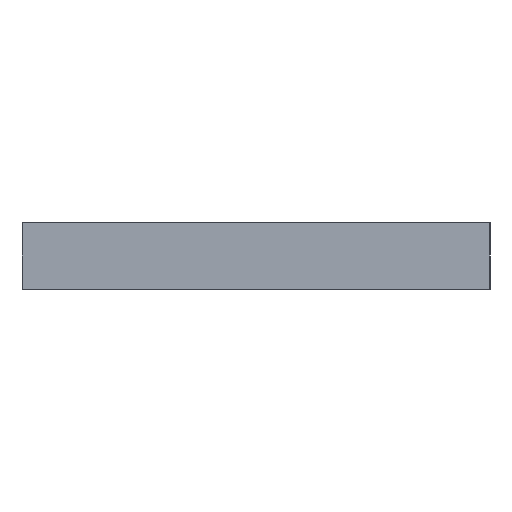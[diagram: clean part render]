
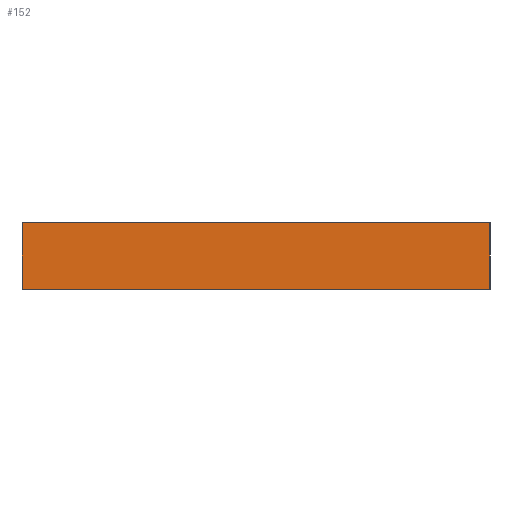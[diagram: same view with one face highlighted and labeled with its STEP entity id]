
A CAD part, left-side view. The second image highlights one B-rep face of the part: STEP entity #152.
In plain terms, the highlighted planar face has unit normal (-1, 0, 0).
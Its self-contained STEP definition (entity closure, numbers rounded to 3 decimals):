
#1 = DIRECTION ( 'NONE',  ( 0., 0., 1. ) ) ;
#12 = CARTESIAN_POINT ( 'NONE',  ( -21.991, -30.42, 1.5 ) ) ;
#20 = CARTESIAN_POINT ( 'NONE',  ( -21.991, -9.42, -1.5 ) ) ;
#23 = PLANE ( 'NONE',  #258 ) ;
#33 = EDGE_CURVE ( 'NONE', #276, #118, #215, .T. ) ;
#38 = VECTOR ( 'NONE', #347, 1000. ) ;
#39 = VECTOR ( 'NONE', #1, 1000. ) ;
#73 = ORIENTED_EDGE ( 'NONE', *, *, #33, .T. ) ;
#92 = VECTOR ( 'NONE', #325, 1000. ) ;
#95 = CARTESIAN_POINT ( 'NONE',  ( -21.991, -30.42, -1.5 ) ) ;
#101 = EDGE_LOOP ( 'NONE', ( #164, #333, #73, #340 ) ) ;
#102 = CARTESIAN_POINT ( 'NONE',  ( -21.991, -9.42, 1.5 ) ) ;
#104 = LINE ( 'NONE', #12, #411 ) ;
#106 = LINE ( 'NONE', #20, #92 ) ;
#118 = VERTEX_POINT ( 'NONE', #371 ) ;
#146 = DIRECTION ( 'NONE',  ( 0., 0., 1. ) ) ;
#152 = ADVANCED_FACE ( 'NONE', ( #305 ), #23, .T. ) ;
#164 = ORIENTED_EDGE ( 'NONE', *, *, #228, .F. ) ;
#169 = DIRECTION ( 'NONE',  ( 0., -1., 0. ) ) ;
#182 = CARTESIAN_POINT ( 'NONE',  ( -21.991, -30.42, 1.5 ) ) ;
#215 = LINE ( 'NONE', #310, #38 ) ;
#225 = VERTEX_POINT ( 'NONE', #102 ) ;
#226 = CARTESIAN_POINT ( 'NONE',  ( -21.991, -9.42, -1.5 ) ) ;
#228 = EDGE_CURVE ( 'NONE', #225, #344, #104, .T. ) ;
#245 = CARTESIAN_POINT ( 'NONE',  ( -21.991, -30.42, -1.5 ) ) ;
#258 = AXIS2_PLACEMENT_3D ( 'NONE', #245, #312, #146 ) ;
#275 = EDGE_CURVE ( 'NONE', #276, #225, #106, .T. ) ;
#276 = VERTEX_POINT ( 'NONE', #226 ) ;
#305 = FACE_OUTER_BOUND ( 'NONE', #101, .T. ) ;
#310 = CARTESIAN_POINT ( 'NONE',  ( -21.991, -30.42, -1.5 ) ) ;
#312 = DIRECTION ( 'NONE',  ( -1., 0., 0. ) ) ;
#325 = DIRECTION ( 'NONE',  ( 0., 0., 1. ) ) ;
#332 = EDGE_CURVE ( 'NONE', #118, #344, #403, .T. ) ;
#333 = ORIENTED_EDGE ( 'NONE', *, *, #275, .F. ) ;
#340 = ORIENTED_EDGE ( 'NONE', *, *, #332, .T. ) ;
#344 = VERTEX_POINT ( 'NONE', #182 ) ;
#347 = DIRECTION ( 'NONE',  ( 0., -1., 0. ) ) ;
#371 = CARTESIAN_POINT ( 'NONE',  ( -21.991, -30.42, -1.5 ) ) ;
#403 = LINE ( 'NONE', #95, #39 ) ;
#411 = VECTOR ( 'NONE', #169, 1000. ) ;
